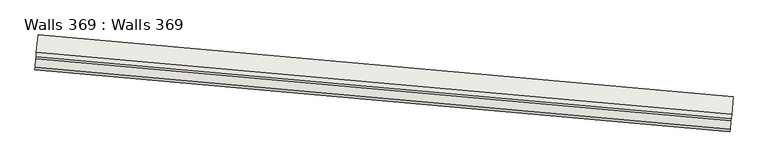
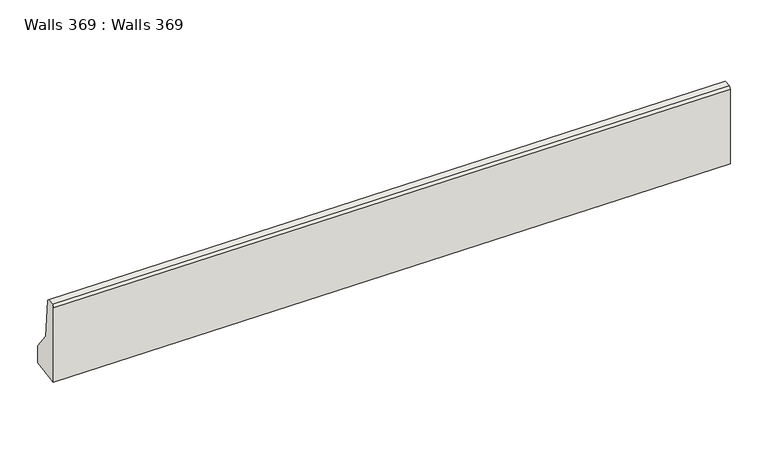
"""IFC4 building model written with IfcOpenShell, lengths in millimetres: wall geometry, Walls 369 : Walls 369."""

from ifc_helpers import new_model, si_unit, origin, place, context, project, spatial, faceted_brep, source, transform, mapped, element, save


def walls_369_walls_369_04aad7de(model_context):
    return source(origin(), model_context, "Body", "Brep", [
        faceted_brep([(-690606.0105398, -417555.2608226, 637435.0), (-690603.7921066, -417530.359446, 637460.0), (-690594.9183741, -417430.7539398, 637460.0), (-690592.699941, -417405.8525632, 637435.0), (-690588.2630747, -417356.0498101, 636930.0), (-690570.5156097, -417156.8387977, 636680.0), (-690570.5156097, -417156.8387977, 636460.0), (-690606.0105398, -417555.2608226, 636460.0), (-682637.5700415, -418265.1594238, 637935.0), (-682637.5700415, -418265.1594238, 636960.0), (-682602.0751114, -417866.7373989, 636960.0), (-682602.0751114, -417866.7373989, 637180.0), (-682619.8225764, -418065.9484114, 637430.0), (-682624.2594427, -418115.7511645, 637935.0), (-682626.4778758, -418140.652541, 637960.0), (-682635.3516083, -418240.2580473, 637960.0)], [[[0, 1, 2, 3, 4, 5, 6, 7]], [[8, 9, 10, 11, 12, 13, 14, 15]], [[8, 15, 1, 0]], [[15, 14, 2, 1]], [[14, 13, 3, 2]], [[13, 12, 4, 3]], [[12, 11, 5, 4]], [[11, 10, 6, 5]], [[10, 9, 7, 6]], [[9, 8, 0, 7]]]),
    ])


if __name__ == "__main__":
    model = new_model("IFC4")
    model_context = context("Model", 3, world=origin())
    ifc_project = project(units=[si_unit("LENGTHUNIT", "METRE", prefix="MILLI")], contexts=[model_context])
    site = spatial("IfcSite", under=ifc_project)
    building = spatial("IfcBuilding", under=site)
    placement = place(None, origin())
    walls_369_walls_369_shape = walls_369_walls_369_04aad7de(model_context)
    element("IfcWall", 1, ObjectType="Walls 369 : Walls 369", at=placement, inside=building, context=model_context, shape_type="MappedRepresentation", body=[
        mapped(walls_369_walls_369_shape, transform((0.0, 0.0, 0.0), x_axis=(1.0, 0.0, 0.0), y_axis=(0.0, 1.0, 0.0), z_axis=(0.0, 0.0, 1.0))),
    ])
    save(model, "model.ifc")
